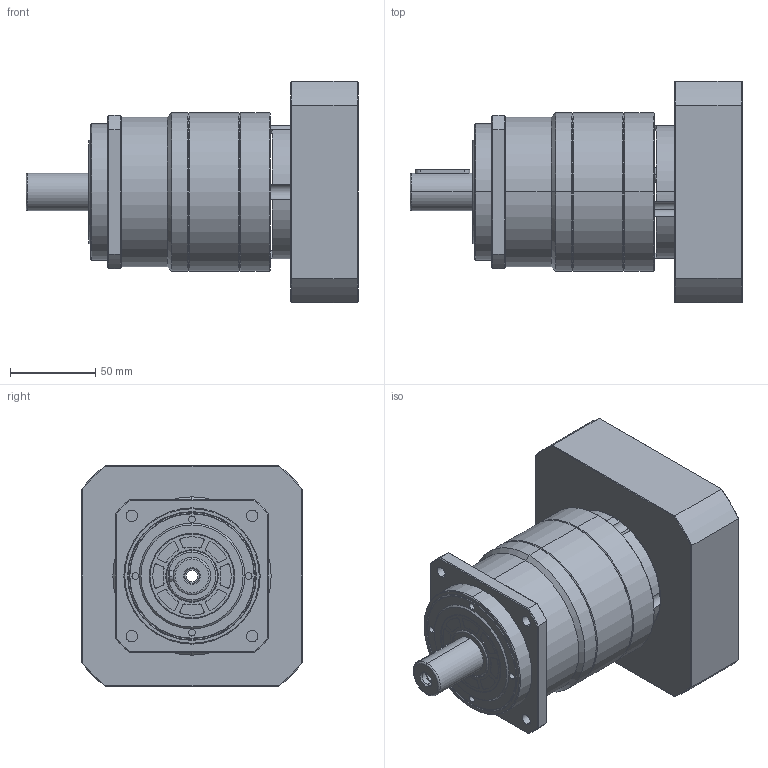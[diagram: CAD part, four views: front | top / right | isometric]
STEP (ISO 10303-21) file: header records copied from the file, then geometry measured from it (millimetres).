
FILE_DESCRIPTION (( 'STEP AP203' ), '1' );
FILE_NAME ('KS90-10X5-110-22-60-M8-145.STEP', '2020-08-12T02:20:29', ( '微软用户' ), ( '微软中国' ), 'SwSTEP 2.0', 'SolidWorks 2008', '' );
FILE_SCHEMA (( 'CONFIG_CONTROL_DESIGN' ));
Length unit declared in the file: millimetre
Products named in the file (1): KS90-10X5-110-22-60-M8-145
Bounding box: 195 x 130 x 130 mm (x, y, z)
Surface area: 130850.6 mm2 (no closed solid volume)
Topology: 0 solids, 25 shells, 343 faces, 1147 edges, 815 vertices
Faces by surface type: plane 132, cylinder 129, cone 60, torus 22
Entity records: 13105 total; most frequent: CARTESIAN_POINT 2892, DIRECTION 2271, ORIENTED_EDGE 1783, EDGE_CURVE 1147, AXIS2_PLACEMENT_3D 882, VERTEX_POINT 815, CIRCLE 538, LINE 507
